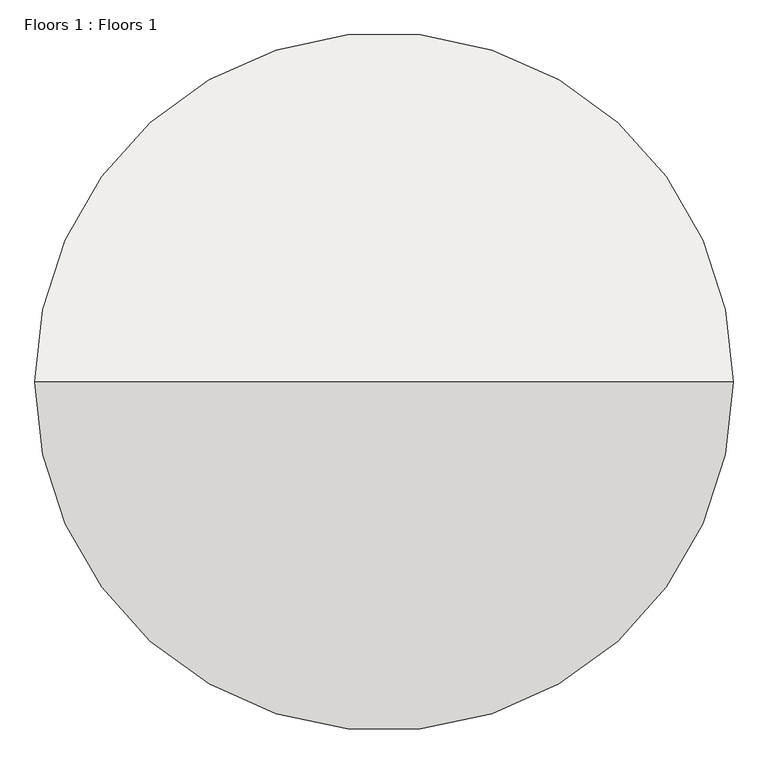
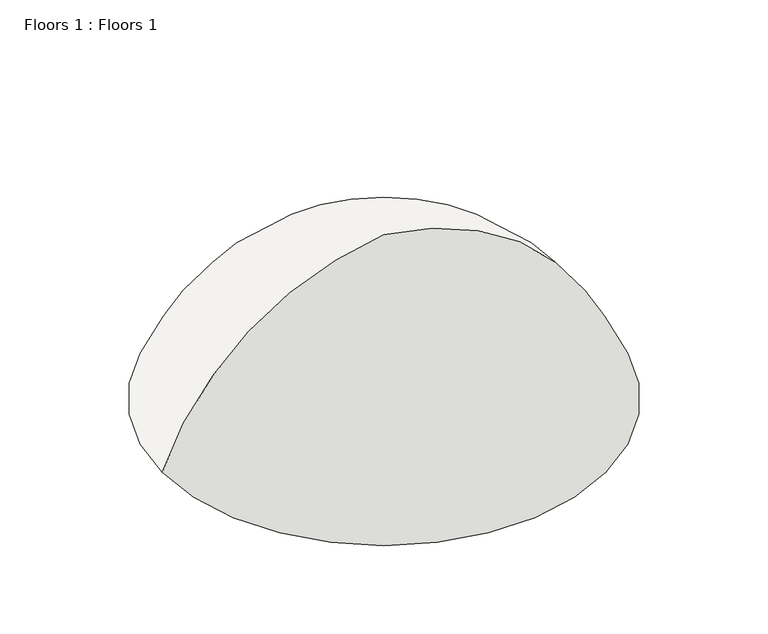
"""IFC4 building model written with IfcOpenShell, lengths in millimetres: slab geometry, Floors 1 : Floors 1."""

from ifc_helpers import new_model, si_unit, point, frame, origin, place, context, project, spatial, circle_curve, ellipse_curve, trimmed, source, transform, mapped, element, save
from ifc_brep_helpers import plane_surface, revolved_surface, advanced_brep


def floors_1_floors_1_f5d326a2(model_context):
    return source(origin(), model_context, "Body", "AdvancedBrep", [
        advanced_brep(
        [(-6901.7618003, -20917.4193311, 3347.2287648), (-9875.4283808, -20917.4193311, 3347.2287648), (-9629.4179159, -20917.4193311, 3347.2287648), (-7147.7722652, -20917.4193311, 3347.2287648), (-8388.5950906, -20917.4193311, 4508.8702435), (-8388.5950906, -20917.4193311, 4278.7363076)],
        [
            (0, 1, circle_curve(frame((-8388.5950906, -20917.4193311, 3347.2287648), z_axis=(0.0, 0.0, -1.0), x_axis=(-1.0, 0.0, 0.0)), 1486.8332902)),
            (1, 2),
            (2, 3, circle_curve(frame((-8388.5950906, -20917.4193311, 3347.2287648), z_axis=(0.0, 0.0, 1.0), x_axis=(-1.0, 0.0, 0.0)), 1240.8228254)),
            (3, 0),
            (1, 0, circle_curve(frame((-8388.5950906, -20917.4193311, 3347.2287648), z_axis=(0.0, 0.0, -1.0), x_axis=(-1.0, 0.0, 0.0)), 1486.8332902)),
            (3, 2, circle_curve(frame((-8388.5950906, -20917.4193311, 3347.2287648), z_axis=(0.0, 0.0, 1.0), x_axis=(-1.0, 0.0, 0.0)), 1240.8228254)),
            (4, 1, circle_curve(frame((-8195.9817952, -20917.4193311, 2729.9858143), z_axis=(0.0, -1.0, 0.0), x_axis=(1.0, 0.0, 0.0)), 1789.2818933)),
            (0, 4, circle_curve(frame((-8581.2083859, -20917.4193311, 2729.9858143), z_axis=(0.0, -1.0, 0.0), x_axis=(-1.0, 0.0, 0.0)), 1789.2818933)),
            (2, 5, circle_curve(frame((-8195.9817952, -20917.4193311, 2729.9858143), z_axis=(0.0, 1.0, 0.0), x_axis=(1.0, 0.0, 0.0)), 1560.6818933)),
            (5, 3, circle_curve(frame((-8581.2083859, -20917.4193311, 2729.9858143), z_axis=(0.0, 1.0, 0.0), x_axis=(-1.0, 0.0, 0.0)), 1560.6818933)),
        ],
        [
            plane_surface(frame((-8388.5950906, -20917.4193311, 3347.2287648), z_axis=(0.0, 0.0, -1.0), x_axis=(-1.0, 0.0, 0.0))),
            revolved_surface(trimmed(ellipse_curve(frame((-8195.9817952, -20917.4193311, 2729.9858143), z_axis=(0.0, 1.0, 0.0), x_axis=(1.0, 0.0, 0.0)), 1789.2818933, 1789.2818933), [point((-9875.4283808, -20917.4193311, 3347.2287648))], [point((-8388.5950906, -20917.4193311, 4508.8702435))], True, "CARTESIAN"), (-8388.5950906, -20917.4193311, 13182.6), (0.0, 0.0, 1.0)),
            revolved_surface(trimmed(ellipse_curve(frame((-8195.9817952, -20917.4193311, 2729.9858143), z_axis=(0.0, -1.0, 0.0), x_axis=(1.0, 0.0, 0.0)), 1560.6818933, 1560.6818933), [point((-8388.5950906, -20917.4193311, 4278.7363076))], [point((-9629.4179159, -20917.4193311, 3347.2287648))], True, "CARTESIAN"), (-8388.5950906, -20917.4193311, 13182.6), (0.0, 0.0, 1.0)),
        ],
        [
            (0, [[1, 2, 3, 4]]),
            (0, [[5, -4, 6, -2]]),
            (1, [[7, -1, 8]]),
            (1, [[-8, -5, -7]]),
            (2, [[-3, 9, 10]]),
            (2, [[-6, -10, -9]]),
        ],
    ),
    ])


if __name__ == "__main__":
    model = new_model("IFC4")
    model_context = context("Model", 3, world=origin())
    ifc_project = project(units=[si_unit("LENGTHUNIT", "METRE", prefix="MILLI")], contexts=[model_context])
    site = spatial("IfcSite", under=ifc_project)
    building = spatial("IfcBuilding", under=site)
    placement = place(None, origin())
    floors_1_floors_1_shape = floors_1_floors_1_f5d326a2(model_context)
    element("IfcSlab", 1, ObjectType="Floors 1 : Floors 1", at=placement, inside=building, context=model_context, shape_type="MappedRepresentation", body=[
        mapped(floors_1_floors_1_shape, transform((0.0, 0.0, 0.0), x_axis=(1.0, 0.0, 0.0), y_axis=(0.0, 1.0, 0.0), z_axis=(0.0, 0.0, 1.0))),
    ])
    save(model, "model.ifc")
